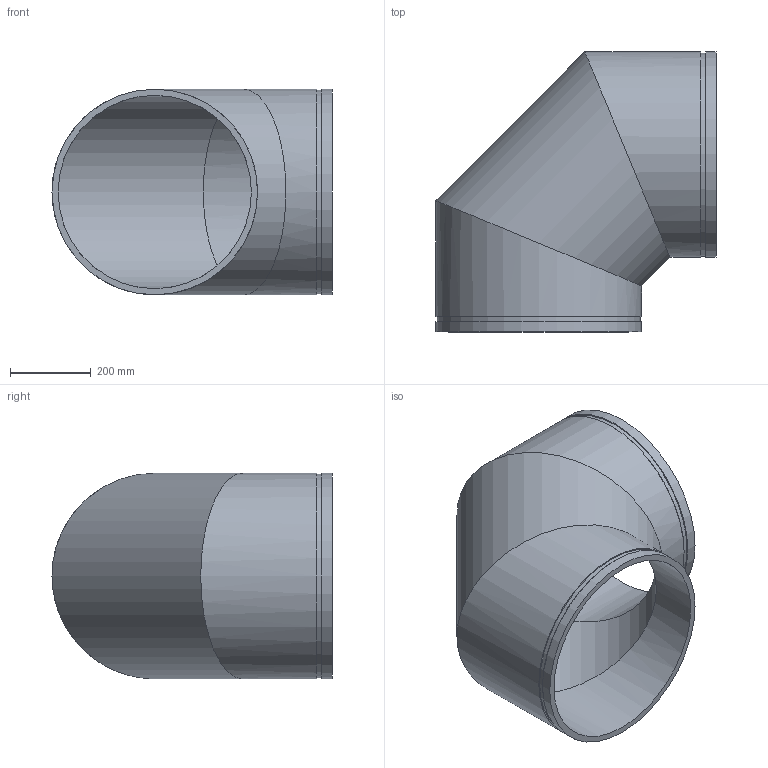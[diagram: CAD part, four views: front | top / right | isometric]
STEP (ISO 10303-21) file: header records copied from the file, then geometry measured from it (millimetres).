
FILE_DESCRIPTION(/* description */ ('VIC 90 DEG ELBOW FABRICATED No 10 SWS (OGS)','CAx-IF Rec.Pracs.---Representation and Presentation of Product Manufacturing Information (PMI)---4.0---2014-10-13'),/* implementation_level */ '2;1');
FILE_NAME(/* name */ 'C:\Users\kkamble\AppData\Roaming\Autodesk\ApplicationPlugins\Back Up\Victaulic_IPS_Elbow 90 Deg_No 10 SWS (OGS)\Victaulic_IPS_Elbow 90 Deg_No 10 SWS (OGS)_20 (500).stp',/* time_stamp */ '2020-09-16T22:18:22+06:00',/* author */ ('cgray'),/* organization */ ('Victaulic'),/* preprocessor_version */ 'ST-DEVELOPER v17.2',/* originating_system */ 'Autodesk Inventor 2019',/* authorisation */ '');
FILE_SCHEMA (('AP242_MANAGED_MODEL_BASED_3D_ENGINEERING_MIM_LF { 1 0 10303 442 1 1 4 }'));
Length unit declared in the file: inch
Products named in the file (1): 10 SWS-20.0
Bounding box: 692.15 x 692.15 x 508 mm (x, y, z)
Volume: 17334599.5 mm3; surface area: 2380488.9 mm2
Topology: 1 solids, 1 shells, 16 faces, 38 edges, 28 vertices
Faces by surface type: cylinder 10, plane 6
Full cylindrical faces by diameter (mm): 477.876 x3, 502.437 x2, 508 x5
Entity records: 646 total; most frequent: DIRECTION 126, CARTESIAN_POINT 100, ORIENTED_EDGE 76, AXIS2_PLACEMENT_3D 58, EDGE_CURVE 38, VERTEX_POINT 28, EDGE_LOOP 22, STYLED_ITEM 18
